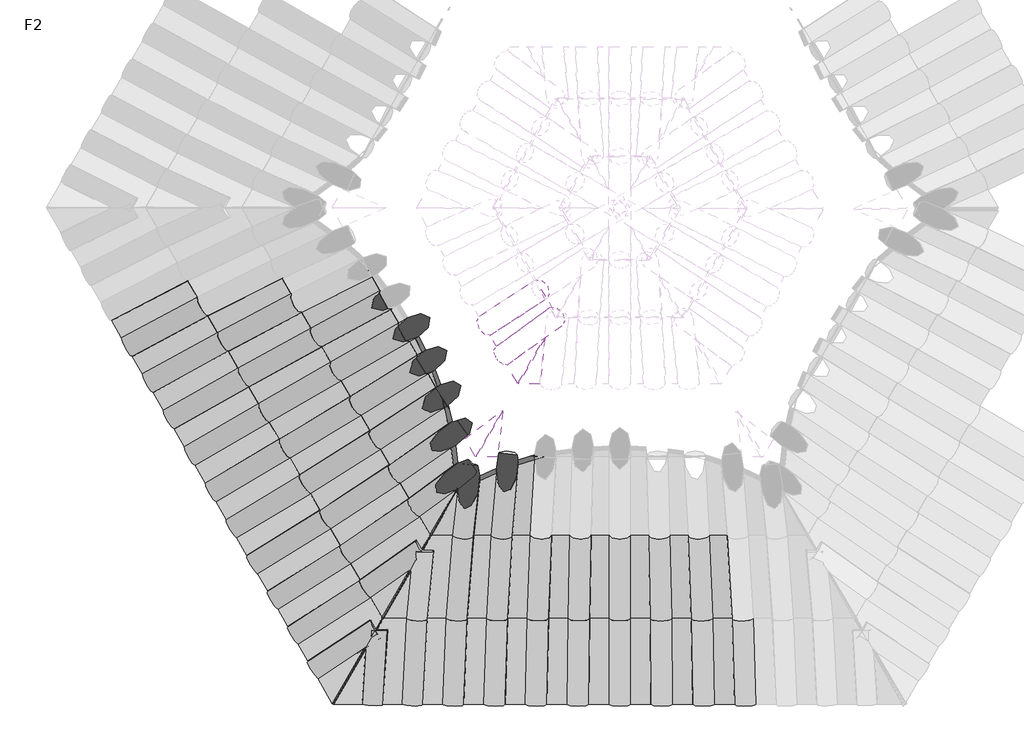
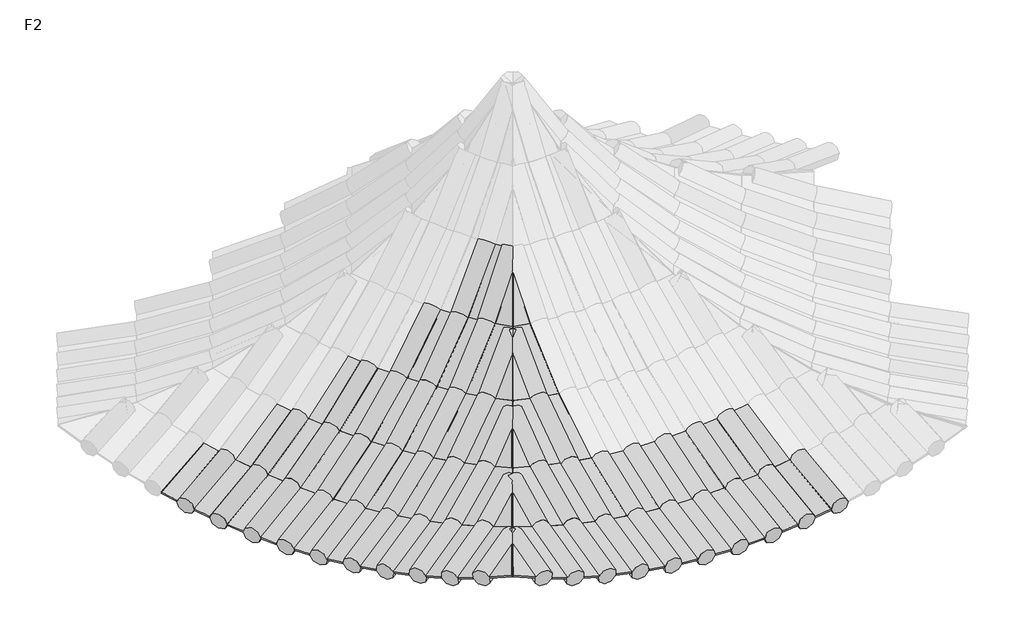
# One storey, part 1 of 6: 58 plates, 51 members.
"""IFC4 building model written with IfcOpenShell, lengths in millimetres."""

from ifc_helpers import new_model, si_unit, origin, place, context, project, spatial, transform, mapped, element, save
from components import member_7626b7be, member_26c271c4, member_52a6bcec, member_d07f44d0, member_52043cd3, member_28539939, member_fd67414a, member_29c24a8f, member_5ebe3699, member_9d2ae609, member_3b22838b, member_f81221a5, member_02d8162e, member_5a0915c5, member_9361b17f, member_c5fdb4bd, member_f944c00d, member_44465ff4, member_d0b930ac, member_f34ff4b6, member_1220ca79, plate_0ebb438e, plate_6b57b127, plate_d3f52e52, plate_d213f6b1, plate_9638d80c, plate_89c366d1, plate_aaafe28a, plate_ecf98e0f, plate_a8a21952, plate_665b0e48, plate_f97c0013, plate_6a16cba0, plate_1539b490, plate_9ed079f8, plate_51358e00, plate_823a82dc, plate_c055fcc8, plate_38bc2d65, plate_a3322e93, plate_fe606144, plate_ecea87b7, plate_f94965ac, plate_2cce4260

model = new_model("IFC4")

# Units and contexts
model_context = context("Model", 3, world=origin())
ifc_project = project(units=[si_unit("LENGTHUNIT", "METRE", prefix="MILLI")], contexts=[model_context])

# Site, building, storey
site = spatial("IfcSite", under=ifc_project)
building = spatial("IfcBuilding", under=site)
storey = spatial("IfcBuildingStorey", under=building, Name="F2", Elevation=4000.0)

# Members
placement = place(None, origin())
member_shape = member_7626b7be(model_context)
element("IfcMember", 1, ObjectType="矩形竖梃 : 圆瓦", at=placement, inside=storey, context=model_context, shape_type="MappedRepresentation", body=[
    mapped(member_shape, transform((-17486.728245, -3504.4950657, 4853.1986775), x_axis=(0.9346101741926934, 0.0, -0.3556737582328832), y_axis=(0.35107992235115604, -0.1602027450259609, 0.9225388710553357), z_axis=(-0.05697991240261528, -0.9870841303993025, -0.14972711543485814))),
])
member_2_shape = member_26c271c4(model_context)
element("IfcMember", 2, ObjectType="矩形竖梃 : 圆瓦", at=placement, inside=storey, context=model_context, shape_type="MappedRepresentation", body=[
    mapped(member_2_shape, transform((-17085.5139202, -2725.7203958, 4855.3516935), x_axis=(0.9544369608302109, 0.0, -0.29841261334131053), y_axis=(0.2856662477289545, -0.289142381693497, 0.9136692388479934), z_axis=(-0.08628373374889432, -0.9572861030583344, -0.2759681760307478))),
])
member_3_shape = member_52a6bcec(model_context)
element("IfcMember", 3, ObjectType="矩形竖梃 : 圆瓦", at=placement, inside=storey, context=model_context, shape_type="MappedRepresentation", body=[
    mapped(member_3_shape, transform((-17125.313335, -3504.4950657, 4728.0580377), x_axis=(0.9544369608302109, 0.0, -0.29841261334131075), y_axis=(0.29413052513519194, -0.1687992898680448, 0.9407412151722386), z_axis=(-0.05037183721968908, -0.9856504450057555, -0.16110828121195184))),
])
member_4_shape = member_d07f44d0(model_context)
element("IfcMember", 4, ObjectType="矩形竖梃 : 圆瓦", at=placement, inside=storey, context=model_context, shape_type="MappedRepresentation", body=[
    mapped(member_4_shape, transform((-16724.9660331, -2725.7203958, 4754.5081374), x_axis=(0.9707591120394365, 0.0, -0.2400557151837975), y_axis=(0.22897205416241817, -0.3003508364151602, 0.9259379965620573), z_axis=(-0.07210093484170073, -0.9538287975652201, -0.29156831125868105))),
])
member_5_shape = member_52043cd3(model_context)
element("IfcMember", 5, ObjectType="矩形竖梃 : 圆瓦", at=placement, inside=storey, context=model_context, shape_type="MappedRepresentation", body=[
    mapped(member_5_shape, transform((-16667.9981881, -1972.0884052, 4984.8798848), x_axis=(0.9707591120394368, 0.0, -0.2400557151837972), y_axis=(0.21812466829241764, -0.4175763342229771, 0.8820723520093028), z_axis=(-0.10024158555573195, -0.908641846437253, -0.40536603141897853))),
])
member_6_shape = member_28539939(model_context)
element("IfcMember", 6, ObjectType="矩形竖梃 : 圆瓦", at=placement, inside=storey, context=model_context, shape_type="MappedRepresentation", body=[
    mapped(member_6_shape, transform((-16756.982364, -3504.4950657, 4625.0375895), x_axis=(0.9707591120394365, 0.0, -0.2400557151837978), y_axis=(0.2366110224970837, -0.16879928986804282, 0.9568291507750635), z_axis=(-0.04052123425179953, -0.9856504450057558, -0.1638634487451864))),
])
element("IfcMember", 7, ObjectType="矩形竖梃 : 圆瓦", at=placement, inside=storey, context=model_context, shape_type="MappedRepresentation", body=[
    mapped(member_6_shape, transform((-16383.0878214, -3504.4950657, 4544.5156178), x_axis=(0.9835166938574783, 0.0, -0.18081734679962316), y_axis=(0.17822269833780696, -0.1687992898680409, 0.9694036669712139), z_axis=(-0.03052183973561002, -0.9856504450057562, -0.1660169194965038))),
])
element("IfcMember", 8, ObjectType="矩形竖梃 : 圆瓦", at=placement, inside=storey, context=model_context, shape_type="MappedRepresentation", body=[
    mapped(member_6_shape, transform((-16005.0026255, -3504.4950657, 4486.7877946), x_axis=(0.992662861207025, 0.0, -0.12091502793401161), y_axis=(0.11917995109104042, -0.1687992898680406, 0.9784185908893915), z_axis=(-0.020410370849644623, -0.9856504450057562, -0.16756078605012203))),
])
element("IfcMember", 9, ObjectType="矩形竖梃 : 圆瓦", at=placement, inside=storey, context=model_context, shape_type="MappedRepresentation", body=[
    mapped(member_6_shape, transform((-15624.1150825, -3504.4950657, 4452.0660929), x_axis=(0.9981640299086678, 0.0, -0.060568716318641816), y_axis=(0.059699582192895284, -0.16879928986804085, 0.9838408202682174), z_axis=(-0.010223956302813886, -0.9856504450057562, -0.1684893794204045))),
])
element("IfcMember", 10, ObjectType="矩形竖梃 : 圆瓦", at=placement, inside=storey, context=model_context, shape_type="MappedRepresentation", body=[
    mapped(member_6_shape, transform((-19710.6199159, -262.4079271, 4544.5156178), x_axis=(0.4910483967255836, -0.8521599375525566, -0.1808173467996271), y_axis=(-0.05727205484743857, -0.23869738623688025, 0.9694036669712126), z_axis=(-0.8692475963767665, -0.46566833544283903, -0.1660169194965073))),
])
element("IfcMember", 11, ObjectType="矩形竖梃 : 圆瓦", at=placement, inside=storey, context=model_context, shape_type="MappedRepresentation", body=[
    mapped(member_6_shape, transform((-19521.8502382, -589.9967305, 4486.7877946), x_axis=(0.49561487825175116, -0.8600845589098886, -0.1209150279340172), y_axis=(-0.08675080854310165, -0.18754028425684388, 0.9784185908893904), z_axis=(-0.864199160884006, -0.47442933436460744, -0.16756078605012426))),
])
element("IfcMember", 12, ObjectType="矩形竖梃 : 圆瓦", at=placement, inside=storey, context=model_context, shape_type="MappedRepresentation", body=[
    mapped(member_6_shape, transform((-19331.6814099, -920.0136045, 4452.0660929), x_axis=(0.4983614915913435, -0.8648510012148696, -0.060568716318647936), y_axis=(-0.11644805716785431, -0.1360040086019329, 0.9838408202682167), z_axis=(-0.8591133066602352, -0.4832552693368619, -0.16848937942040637))),
])
member_7_shape = member_fd67414a(model_context)
element("IfcMember", 13, ObjectType="矩形竖梃 : 圆瓦", at=placement, inside=storey, context=model_context, shape_type="MappedRepresentation", body=[
    mapped(member_7_shape, transform((-16358.9721363, -2725.7203958, 4675.6876498), x_axis=(0.9835166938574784, 0.0, -0.18081734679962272), y_axis=(0.17246879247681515, -0.3003508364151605, 0.9381065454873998), z_axis=(-0.05430864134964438, -0.9538287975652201, -0.29540006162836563))),
])
element("IfcMember", 14, ObjectType="矩形竖梃 : 圆瓦", at=placement, inside=storey, context=model_context, shape_type="MappedRepresentation", body=[
    mapped(member_7_shape, transform((-15988.8761377, -2725.7203958, 4619.1796547), x_axis=(0.992662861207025, 0.0, -0.12091502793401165), y_axis=(0.11533223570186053, -0.3003508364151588, 0.9468304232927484), z_axis=(-0.036316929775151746, -0.9538287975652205, -0.2981471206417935))),
])
element("IfcMember", 15, ObjectType="矩形竖梃 : 圆瓦", at=placement, inside=storey, context=model_context, shape_type="MappedRepresentation", body=[
    mapped(member_7_shape, transform((-15616.0370075, -2725.7203958, 4585.1916462), x_axis=(0.9981640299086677, 0.0, -0.060568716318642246), y_axis=(0.057772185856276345, -0.3003508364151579, 0.9520775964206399), z_axis=(-0.01819186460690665, -0.9538287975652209, -0.29979940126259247))),
])
element("IfcMember", 16, ObjectType="矩形竖梃 : 圆瓦", at=placement, inside=storey, context=model_context, shape_type="MappedRepresentation", body=[
    mapped(member_7_shape, transform((-18839.0357378, -215.1442155, 4619.1796547), x_axis=(0.4956148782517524, -0.8600845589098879, -0.12091502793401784), y_axis=(-0.20265364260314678, -0.24988727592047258, 0.9468304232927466), z_axis=(-0.8445693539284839, -0.4447593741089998, -0.2981471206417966))),
])
element("IfcMember", 17, ObjectType="矩形竖梃 : 圆瓦", at=placement, inside=storey, context=model_context, shape_type="MappedRepresentation", body=[
    mapped(member_7_shape, transform((-18652.8853061, -538.1876085, 4585.1916462), x_axis=(0.49836149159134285, -0.8648510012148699, -0.06056871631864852), y_axis=(-0.23139211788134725, -0.20001484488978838, 0.9520775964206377), z_axis=(-0.8355199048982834, -0.46046368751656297, -0.29979940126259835))),
])
element("IfcMember", 18, ObjectType="矩形竖梃 : 圆瓦", at=placement, inside=storey, context=model_context, shape_type="MappedRepresentation", body=[
    mapped(member_7_shape, transform((-17992.7306423, -174.3695247, 4822.0668801), x_axis=(0.49836149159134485, -0.8648510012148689, -0.060568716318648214), y_axis=(-0.3420974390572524, -0.2603617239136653, 0.9028738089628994), z_axis=(-0.7966210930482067, -0.4292371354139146, -0.42561756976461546))),
])
member_8_shape = member_29c24a8f(model_context)
element("IfcMember", 19, ObjectType="矩形竖梃 : 圆瓦", at=placement, inside=storey, context=model_context, shape_type="MappedRepresentation", body=[
    mapped(member_8_shape, transform((-16316.0622037, -1972.0884052, 4909.0869108), x_axis=(0.9835166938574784, 0.0, -0.18081734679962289), y_axis=(0.16355552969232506, -0.42640042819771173, 0.8896247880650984), z_axis=(-0.07710059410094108, -0.9045345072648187, -0.4193719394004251))),
])
member_9_shape = member_5ebe3699(model_context)
element("IfcMember", 20, ObjectType="矩形竖梃 : 圆瓦", at=placement, inside=storey, context=model_context, shape_type="MappedRepresentation", body=[
    mapped(member_9_shape, transform((-16255.1440658, -1257.4044461, 5240.4378936), x_axis=(0.9835166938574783, 0.0, -0.18081734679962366), y_axis=(0.1520572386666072, -0.5411223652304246, 0.8270823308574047), z_axis=(-0.09784431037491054, -0.8409438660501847, -0.5322028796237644))),
])
member_10_shape = member_9d2ae609(model_context)
element("IfcMember", 21, ObjectType="矩形竖梃 : 圆瓦", at=placement, inside=storey, context=model_context, shape_type="MappedRepresentation", body=[
    mapped(member_10_shape, transform((-15241.8237888, -3504.4950657, 4440.4780088), x_axis=(1.0, 0.0, 0.0), y_axis=(0.0, -0.16879928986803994, 0.9856504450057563), z_axis=(0.0, -0.9856504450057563, -0.16879928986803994))),
])
element("IfcMember", 22, ObjectType="矩形竖梃 : 圆瓦", at=placement, inside=storey, context=model_context, shape_type="MappedRepresentation", body=[
    mapped(member_10_shape, transform((-19140.8117195, -1251.2467467, 4440.4780088), x_axis=(0.4992781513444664, -0.8664417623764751, 0.0), y_axis=(-0.14625475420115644, -0.08427779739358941, 0.9856504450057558), z_axis=(-0.8540087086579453, -0.4921137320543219, -0.16879928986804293))),
])
element("IfcMember", 23, ObjectType="矩形竖梃 : 圆瓦", at=placement, inside=storey, context=model_context, shape_type="MappedRepresentation", body=[
    mapped(member_10_shape, transform((-18949.9420291, -1582.479889, 4452.0660929), x_axis=(0.4983614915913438, -0.8648510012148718, 0.060568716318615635), y_axis=(-0.17606145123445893, -0.03255158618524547, 0.9838408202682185), z_axis=(-0.8489041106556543, -0.5009721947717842, -0.1684893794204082))),
])
element("IfcMember", 24, ObjectType="矩形竖梃 : 圆瓦", at=placement, inside=storey, context=model_context, shape_type="MappedRepresentation", body=[
    mapped(member_10_shape, transform((-18759.7732008, -1912.496763, 4486.7877946), x_axis=(0.49561487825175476, -0.8600845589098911, 0.12091502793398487), y_axis=(-0.20575869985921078, 0.018984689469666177, 0.9784185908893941), z_axis=(-0.8438182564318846, -0.5097981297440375, -0.16756078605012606))),
])
element("IfcMember", 25, ObjectType="矩形竖梃 : 圆瓦", at=placement, inside=storey, context=model_context, shape_type="MappedRepresentation", body=[
    mapped(member_10_shape, transform((-18571.0035231, -2240.0855664, 4544.5156178), x_axis=(0.49104839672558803, -0.8521599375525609, 0.18081734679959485), y_axis=(-0.2352374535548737, 0.07014179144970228, 0.9694036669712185), z_axis=(-0.8387698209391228, -0.5185591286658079, -0.16601691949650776))),
])
element("IfcMember", 26, ObjectType="矩形竖梃 : 圆瓦", at=placement, inside=storey, context=model_context, shape_type="MappedRepresentation", body=[
    mapped(member_10_shape, transform((-18384.3261471, -2564.0434129, 4625.0375895), x_axis=(0.484678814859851, -0.8411062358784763, 0.24005571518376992), y_axis=(-0.2643894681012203, 0.12073187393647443, 0.9568291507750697), z_axis=(-0.833777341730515, -0.5272230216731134, -0.16386344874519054))),
])
member_11_shape = member_3b22838b(model_context)
element("IfcMember", 27, ObjectType="矩形竖梃 : 圆瓦", at=placement, inside=storey, context=model_context, shape_type="MappedRepresentation", body=[
    mapped(member_11_shape, transform((-14859.5324951, -3504.4950657, 4452.0660929), x_axis=(0.9981640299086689, 0.0, 0.06056871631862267), y_axis=(-0.059699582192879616, -0.16879928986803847, 0.9838408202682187), z_axis=(0.010223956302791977, -0.9856504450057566, -0.16848937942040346))),
])
element("IfcMember", 28, ObjectType="矩形竖梃 : 圆瓦", at=placement, inside=storey, context=model_context, shape_type="MappedRepresentation", body=[
    mapped(member_11_shape, transform((-14478.6449522, -3504.4950657, 4486.7877946), x_axis=(0.9926628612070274, 0.0, 0.12091502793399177), y_axis=(-0.11917995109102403, -0.1687992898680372, 0.9784185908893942), z_axis=(0.02041037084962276, -0.9856504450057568, -0.16756078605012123))),
])
element("IfcMember", 29, ObjectType="矩形竖梃 : 圆瓦", at=placement, inside=storey, context=model_context, shape_type="MappedRepresentation", body=[
    mapped(member_11_shape, transform((-14100.5597563, -3504.4950657, 4544.5156178), x_axis=(0.983516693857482, 0.0, 0.18081734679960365), y_axis=(-0.17822269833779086, -0.1687992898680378, 0.9694036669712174), z_axis=(0.030521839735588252, -0.9856504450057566, -0.16601691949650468))),
])
member_12_shape = member_f81221a5(model_context)
element("IfcMember", 30, ObjectType="矩形竖梃 : 圆瓦", at=placement, inside=storey, context=model_context, shape_type="MappedRepresentation", body=[
    mapped(member_12_shape, transform((-15241.8237888, -2725.7203958, 4573.8484261), x_axis=(1.0, 0.0, 0.0), y_axis=(0.0, -0.30035083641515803, 0.9538287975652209), z_axis=(0.0, -0.9538287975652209, -0.30035083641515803))),
])
element("IfcMember", 31, ObjectType="矩形竖梃 : 圆瓦", at=placement, inside=storey, context=model_context, shape_type="MappedRepresentation", body=[
    mapped(member_12_shape, transform((-18466.048822, -862.4215693, 4573.8484261), x_axis=(0.49927815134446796, -0.8664417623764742, 0.0), y_axis=(-0.26023650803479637, -0.14995861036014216, 0.9538287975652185), z_axis=(-0.8264371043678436, -0.47622587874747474, -0.3003508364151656))),
])
element("IfcMember", 32, ObjectType="矩形竖梃 : 圆瓦", at=placement, inside=storey, context=model_context, shape_type="MappedRepresentation", body=[
    mapped(member_12_shape, transform((-18279.212338, -1186.65553, 4585.1916462), x_axis=(0.49836149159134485, -0.8648510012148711, 0.06056871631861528), y_axis=(-0.2890808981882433, -0.09990237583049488, 0.9520775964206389), z_axis=(-0.8173543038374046, -0.49198806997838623, -0.2997994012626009))),
])
element("IfcMember", 33, ObjectType="矩形竖梃 : 圆瓦", at=placement, inside=storey, context=model_context, shape_type="MappedRepresentation", body=[
    mapped(member_12_shape, transform((-18093.0619063, -1509.698923, 4619.1796547), x_axis=(0.4956148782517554, -0.860084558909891, 0.12091502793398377), y_axis=(-0.3178193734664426, -0.05002994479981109, 0.9468304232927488), z_axis=(-0.8083048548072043, -0.5076923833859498, -0.29814712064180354))),
])
element("IfcMember", 34, ObjectType="矩形竖梃 : 圆瓦", at=placement, inside=storey, context=model_context, shape_type="MappedRepresentation", body=[
    mapped(member_12_shape, transform((-17908.2810603, -1830.3655523, 4675.6876498), x_axis=(0.49104839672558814, -0.852159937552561, 0.1808173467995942), y_axis=(-0.3463464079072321, -0.0005244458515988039, 0.9381065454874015), z_axis=(-0.7993219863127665, -0.5232811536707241, -0.2954000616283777))),
])
element("IfcMember", 35, ObjectType="矩形竖梃 : 圆瓦", at=placement, inside=storey, context=model_context, shape_type="MappedRepresentation", body=[
    mapped(member_12_shape, transform((-17813.0705919, -486.1495822, 4811.1593559), x_axis=(0.4992781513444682, -0.8664417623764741, 0.0), y_axis=(-0.36945113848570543, -0.21289241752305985, 0.9045345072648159), z_axis=(-0.7837264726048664, -0.4516143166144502, -0.42640042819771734))),
])
element("IfcMember", 36, ObjectType="矩形竖梃 : 圆瓦", at=placement, inside=storey, context=model_context, shape_type="MappedRepresentation", body=[
    mapped(member_12_shape, transform((-17633.4105414, -797.9296397, 4822.0668801), x_axis=(0.4983614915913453, -0.8648510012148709, 0.060568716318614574), y_axis=(-0.39680483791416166, -0.1654231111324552, 0.9028738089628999), z_axis=(-0.770831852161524, -0.47399149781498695, -0.4256175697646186))),
])
element("IfcMember", 37, ObjectType="矩形竖梃 : 圆瓦", at=placement, inside=storey, context=model_context, shape_type="MappedRepresentation", body=[
    mapped(member_12_shape, transform((-17454.410192, -1108.5648594, 4854.7494012), x_axis=(0.49561487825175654, -0.8600845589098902, 0.12091502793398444), y_axis=(-0.42405809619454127, -0.11812810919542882, 0.8978978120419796), z_axis=(-0.7579845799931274, -0.4962865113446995, -0.4232718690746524))),
])
element("IfcMember", 38, ObjectType="矩形竖梃 : 圆瓦", at=placement, inside=storey, context=model_context, shape_type="MappedRepresentation", body=[
    mapped(member_12_shape, transform((-17193.8385629, -129.3234963, 5148.0636351), x_axis=(0.49927815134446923, -0.8664417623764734, 0.0), y_axis=(-0.4718980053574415, -0.27192637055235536, 0.8386705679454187), z_axis=(-0.7266592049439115, -0.4187298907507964, -0.5446390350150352))),
])
element("IfcMember", 39, ObjectType="矩形竖梃 : 圆瓦", at=placement, inside=storey, context=model_context, shape_type="MappedRepresentation", body=[
    mapped(member_12_shape, transform((-17024.3667123, -423.4230647, 5158.3526132), x_axis=(0.49836149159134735, -0.8648510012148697, 0.06056871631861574), y_axis=(-0.49725993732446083, -0.227913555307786, 0.8371307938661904), z_axis=(-0.7101889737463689, -0.4473121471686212, -0.5436390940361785))),
])
element("IfcMember", 40, ObjectType="矩形竖梃 : 圆瓦", at=placement, inside=storey, context=model_context, shape_type="MappedRepresentation", body=[
    mapped(member_12_shape, transform((-16855.5171523, -716.4427172, 5189.1817669), x_axis=(0.49561487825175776, -0.8600845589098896, 0.12091502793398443), y_axis=(-0.5225287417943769, -0.1840623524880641, 0.8325171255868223), z_axis=(-0.6937792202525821, -0.4757894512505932, -0.5406429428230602))),
])
element("IfcMember", 41, ObjectType="矩形竖梃 : 圆瓦", at=placement, inside=storey, context=model_context, shape_type="MappedRepresentation", body=[
    mapped(member_12_shape, transform((-16463.2375753, -69.9961764, 5587.8886197), x_axis=(0.49836149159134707, -0.8648510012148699, 0.06056871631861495), y_axis=(-0.5886060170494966, -0.2862289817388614, 0.7560528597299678), z_axis=(-0.6365365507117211, -0.41243874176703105, -0.6517020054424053))),
])
member_13_shape = member_02d8162e(model_context)
element("IfcMember", 42, ObjectType="矩形竖梃 : 圆瓦", at=placement, inside=storey, context=model_context, shape_type="MappedRepresentation", body=[
    mapped(member_13_shape, transform((-14867.6105701, -2725.7203958, 4585.1916462), x_axis=(0.9981640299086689, 0.0, 0.060568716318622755), y_axis=(-0.05777218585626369, -0.30035083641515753, 0.9520775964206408), z_axis=(0.01819186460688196, -0.953828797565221, -0.2997994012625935))),
])
element("IfcMember", 43, ObjectType="矩形竖梃 : 圆瓦", at=placement, inside=storey, context=model_context, shape_type="MappedRepresentation", body=[
    mapped(member_13_shape, transform((-14494.7714399, -2725.7203958, 4619.1796547), x_axis=(0.9926628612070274, 0.0, 0.1209150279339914), y_axis=(-0.11533223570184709, -0.30035083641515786, 0.9468304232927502), z_axis=(0.03631692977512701, -0.953828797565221, -0.2981471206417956))),
])
member_14_shape = member_5a0915c5(model_context)
element("IfcMember", 44, ObjectType="矩形竖梃 : 圆瓦", at=placement, inside=storey, context=model_context, shape_type="MappedRepresentation", body=[
    mapped(member_14_shape, transform((-16307.3535655, -340.5155569, 5616.3504772), x_axis=(0.49561487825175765, -0.8600845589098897, 0.12091502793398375), y_axis=(-0.6114274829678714, -0.2466248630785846, 0.7518860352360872), z_axis=(-0.6168649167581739, -0.44657667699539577, -0.6481102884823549))),
])
member_15_shape = member_9361b17f(model_context)
element("IfcMember", 45, ObjectType="矩形竖梃 : 圆瓦", at=placement, inside=storey, context=model_context, shape_type="MappedRepresentation", body=[
    mapped(member_15_shape, transform((-18019.9799727, -3196.3257201, 4853.1986775), x_axis=(0.46663043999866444, -0.8097852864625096, 0.3556737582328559), y_axis=(-0.3140939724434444, 0.22420386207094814, 0.922538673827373), z_axis=(-0.8268016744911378, -0.5421996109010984, -0.14972833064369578))),
])
member_16_shape = member_c5fdb4bd(model_context)
element("IfcMember", 46, ObjectType="矩形竖梃 : 圆瓦", at=placement, inside=storey, context=model_context, shape_type="MappedRepresentation", body=[
    mapped(member_16_shape, transform((-18200.4265408, -2883.1807485, 4728.0580377), x_axis=(0.4765295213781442, -0.8269640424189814, 0.29841261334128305), y_axis=(-0.293107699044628, 0.17056917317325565, 0.940741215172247), z_axis=(-0.8288591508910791, -0.5357579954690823, -0.16110828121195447))),
])
member_17_shape = member_f944c00d(model_context)
element("IfcMember", 47, ObjectType="矩形竖梃 : 圆瓦", at=placement, inside=storey, context=model_context, shape_type="MappedRepresentation", body=[
    mapped(member_17_shape, transform((-17725.5483042, -2147.4779492, 4754.5081374), x_axis=(0.4846788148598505, -0.8411062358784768, 0.24005571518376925), y_axis=(-0.37455725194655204, 0.048432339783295, 0.9259379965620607), z_axis=(-0.790438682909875, -0.5386971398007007, -0.29156831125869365))),
])
member_18_shape = member_44465ff4(model_context)
element("IfcMember", 48, ObjectType="矩形竖梃 : 圆瓦", at=placement, inside=storey, context=model_context, shape_type="MappedRepresentation", body=[
    mapped(member_18_shape, transform((-17276.726822, -1416.9146075, 4909.0869108), x_axis=(0.49104839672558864, -0.8521599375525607, 0.18081734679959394), y_axis=(-0.4511108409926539, -0.07118107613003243, 0.8896247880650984), z_axis=(-0.745231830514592, -0.5184174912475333, -0.4193719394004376))),
])
member_19_shape = member_d0b930ac(model_context)
element("IfcMember", 49, ObjectType="矩形竖梃 : 圆瓦", at=placement, inside=storey, context=model_context, shape_type="MappedRepresentation", body=[
    mapped(member_19_shape, transform((-16687.9098883, -1007.3065029, 5240.4378936), x_axis=(0.49104839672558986, -0.8521599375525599, 0.18081734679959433), y_axis=(-0.5447715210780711, -0.13842305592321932, 0.8270810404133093), z_axis=(-0.6797760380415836, -0.5046409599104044, -0.5322048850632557))),
])
member_20_shape = member_f34ff4b6(model_context)
element("IfcMember", 50, ObjectType="矩形竖梃 : 圆瓦", at=placement, inside=storey, context=model_context, shape_type="MappedRepresentation", body=[
    mapped(member_20_shape, transform((-17545.5346216, -2459.8716959, 4855.3516935), x_axis=(0.4765295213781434, -0.8269640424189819, 0.2984126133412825), y_axis=(-0.3931530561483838, 0.10314991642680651, 0.913668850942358), z_axis=(-0.7863525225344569, -0.5527120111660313, -0.2759694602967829))),
])
member_21_shape = member_1220ca79(model_context)
element("IfcMember", 51, ObjectType="矩形竖梃 : 圆瓦", at=placement, inside=storey, context=model_context, shape_type="MappedRepresentation", body=[
    mapped(member_21_shape, transform((-17101.0128743, -1721.8466421, 4984.8798848), x_axis=(0.4846788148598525, -0.8411062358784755, 0.2400557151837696), y_axis=(-0.4707118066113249, -0.019495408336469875, 0.8820716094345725), z_axis=(-0.7372359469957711, -0.5405184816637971, -0.40536764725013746))),
])

# Plates
plate_shape = plate_0ebb438e(model_context)
element("IfcPlate", 52, ObjectType="空系统嵌板 : 空", at=placement, inside=storey, context=model_context, shape_type="MappedRepresentation", body=[
    mapped(plate_shape, transform((-17351.6901662, -3504.4950657, 4806.441471), x_axis=(0.9449573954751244, 0.0, -0.32719339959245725), y_axis=(-0.3225025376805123, 0.1687240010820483, -0.9314098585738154), z_axis=(0.05520537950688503, 0.9856633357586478, 0.15943699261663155))),
])
plate_2_shape = plate_6b57b127(model_context)
element("IfcPlate", 53, ObjectType="空系统嵌板 : 空", at=placement, inside=storey, context=model_context, shape_type="MappedRepresentation", body=[
    mapped(plate_2_shape, transform((-16941.1478495, -3504.4950657, 4676.5478136), x_axis=(0.9630401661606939, 0.0, -0.2693578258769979), y_axis=(-0.26549613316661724, 0.16872400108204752, -0.9492333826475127), z_axis=(0.04544713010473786, 0.9856633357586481, 0.16248799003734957))),
])
element("IfcPlate", 54, ObjectType="空系统嵌板 : 空", at=placement, inside=storey, context=model_context, shape_type="MappedRepresentation", body=[
    mapped(plate_2_shape, transform((-16570.0350927, -3504.4950657, 4584.7766036), x_axis=(0.9775867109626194, 0.0, -0.21053318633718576), y_axis=(-0.2075148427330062, 0.16872400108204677, -0.9635713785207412), z_axis=(0.0355220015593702, 0.9856633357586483, 0.16494234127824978))),
])
element("IfcPlate", 55, ObjectType="空系统嵌板 : 空", at=placement, inside=storey, context=model_context, shape_type="MappedRepresentation", body=[
    mapped(plate_2_shape, transform((-16194.0452234, -3504.4950657, 4515.6517062), x_axis=(0.9885436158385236, 0.0, -0.15093548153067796), y_axis=(-0.14877157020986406, 0.16872400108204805, -0.9743711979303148), z_axis=(0.025466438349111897, 0.9856633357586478, 0.16679103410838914))),
])
element("IfcPlate", 56, ObjectType="空系统嵌板 : 空", at=placement, inside=storey, context=model_context, shape_type="MappedRepresentation", body=[
    mapped(plate_2_shape, transform((-15814.558854, -3504.4950657, 4469.4269438), x_axis=(0.9958706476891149, 0.0, -0.09078355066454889), y_axis=(-0.08948201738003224, 0.16872400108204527, -0.9815931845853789), z_axis=(0.01531736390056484, 0.9856633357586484, 0.16802728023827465))),
])
element("IfcPlate", 57, ObjectType="空系统嵌板 : 空", at=placement, inside=storey, context=model_context, shape_type="MappedRepresentation", body=[
    mapped(plate_2_shape, transform((-15432.9694357, -3504.4950657, 4446.2720508), x_axis=(0.999540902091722, 0.0, -0.03029826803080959), y_axis=(-0.029863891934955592, 0.1687240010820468, -0.985210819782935), z_axis=(0.005112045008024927, 0.9856633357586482, 0.16864654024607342))),
])
element("IfcPlate", 58, ObjectType="空系统嵌板 : 空", at=placement, inside=storey, context=model_context, shape_type="MappedRepresentation", body=[
    mapped(plate_2_shape, transform((-15050.678142, -3504.4950657, 4446.2720508), x_axis=(0.9995409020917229, 0.0, 0.03029826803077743), y_axis=(0.029863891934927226, 0.1687240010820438, -0.9852108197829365), z_axis=(-0.005112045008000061, 0.9856633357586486, 0.16864654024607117))),
])
element("IfcPlate", 59, ObjectType="空系统嵌板 : 空", at=placement, inside=storey, context=model_context, shape_type="MappedRepresentation", body=[
    mapped(plate_2_shape, transform((-14669.0887236, -3504.4950657, 4469.4269438), x_axis=(0.9958706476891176, 0.0, 0.09078355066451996), y_axis=(0.08948201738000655, 0.16872400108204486, -0.9815931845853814), z_axis=(-0.015317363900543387, 0.9856633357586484, 0.16802728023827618))),
])
element("IfcPlate", 60, ObjectType="空系统嵌板 : 空", at=placement, inside=storey, context=model_context, shape_type="MappedRepresentation", body=[
    mapped(plate_2_shape, transform((-14289.6023542, -3504.4950657, 4515.6517062), x_axis=(0.9885436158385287, 0.0, 0.15093548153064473), y_axis=(0.14877157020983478, 0.1687240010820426, -0.9743711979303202), z_axis=(-0.025466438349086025, 0.985663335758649, 0.1667910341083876))),
])
element("IfcPlate", 61, ObjectType="空系统嵌板 : 空", at=placement, inside=storey, context=model_context, shape_type="MappedRepresentation", body=[
    mapped(plate_2_shape, transform((-19803.9586039, -100.4290038, 4584.7766036), x_axis=(0.4880876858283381, -0.8470219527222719, -0.21053318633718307), y_axis=(0.042581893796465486, 0.2640397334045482, -0.9635713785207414), z_axis=(0.8717552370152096, 0.46134242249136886, 0.16494234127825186))),
])
element("IfcPlate", 62, ObjectType="空系统嵌板 : 空", at=placement, inside=storey, context=model_context, shape_type="MappedRepresentation", body=[
    mapped(plate_2_shape, transform((-19616.235077, -426.2023288, 4515.6517062), x_axis=(0.4935582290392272, -0.856515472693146, -0.15093548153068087), y_axis=(0.07191112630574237, 0.21314210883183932, -0.9743711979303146), z_axis=(0.8667347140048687, 0.4700549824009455, 0.16679103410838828))),
])
element("IfcPlate", 63, ObjectType="空系统嵌板 : 空", at=placement, inside=storey, context=model_context, shape_type="MappedRepresentation", body=[
    mapped(plate_2_shape, transform((-19426.7658241, -755.0051675, 4469.4269438), x_axis=(0.497216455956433, -0.8628639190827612, -0.09078355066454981), y_axis=(0.10151310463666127, 0.16177116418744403, -0.9815931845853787), z_axis=(0.8616675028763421, 0.4788485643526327, 0.16802728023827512))),
])
element("IfcPlate", 64, ObjectType="空系统嵌板 : 空", at=placement, inside=storey, context=model_context, shape_type="MappedRepresentation", body=[
    mapped(plate_2_shape, transform((-19236.2465647, -1085.6301756, 4446.2720508), x_axis=(0.49904893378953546, -0.8660439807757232, -0.03029826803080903), y_axis=(0.13127913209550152, 0.11011553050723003, -0.9852108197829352), z_axis=(0.8565722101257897, 0.4876908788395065, 0.16864654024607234))),
])
element("IfcPlate", 65, ObjectType="空系统嵌板 : 空", at=placement, inside=storey, context=model_context, shape_type="MappedRepresentation", body=[
    mapped(plate_2_shape, transform((-19045.3768743, -1416.8633179, 4446.2720508), x_axis=(0.4990489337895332, -0.8660439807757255, 0.03029826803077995), y_axis=(0.16109990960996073, 0.05836488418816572, -0.9852108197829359), z_axis=(0.8514675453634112, 0.4965494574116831, 0.16864654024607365))),
])
element("IfcPlate", 66, ObjectType="空系统嵌板 : 空", at=placement, inside=storey, context=model_context, shape_type="MappedRepresentation", body=[
    mapped(plate_2_shape, transform((-18854.857615, -1747.488326, 4469.4269438), x_axis=(0.49721645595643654, -0.8628639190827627, 0.09078355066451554), y_axis=(0.19086593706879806, 0.006709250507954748, -0.9815931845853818), z_axis=(0.8463722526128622, 0.5053917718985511, 0.1680272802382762))),
])
element("IfcPlate", 67, ObjectType="空系统嵌板 : 空", at=placement, inside=storey, context=model_context, shape_type="MappedRepresentation", body=[
    mapped(plate_2_shape, transform((-18665.388362, -2076.2911647, 4515.6517062), x_axis=(0.49355822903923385, -0.8565154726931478, 0.15093548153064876), y_axis=(0.22046791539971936, -0.04466169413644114, -0.9743711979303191), z_axis=(0.8413050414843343, 0.5141853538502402, 0.16679103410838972))),
])
element("IfcPlate", 68, ObjectType="空系统嵌板 : 空", at=placement, inside=storey, context=model_context, shape_type="MappedRepresentation", body=[
    mapped(plate_2_shape, transform((-18477.6648351, -2402.0644897, 4584.7766036), x_axis=(0.48808768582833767, -0.8470219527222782, 0.2105331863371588), y_axis=(0.24979714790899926, -0.09555931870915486, -0.9635713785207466), z_axis=(0.8362845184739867, 0.5228979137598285, 0.16494234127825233))),
])
element("IfcPlate", 69, ObjectType="空系统嵌板 : 空", at=placement, inside=storey, context=model_context, shape_type="MappedRepresentation", body=[
    mapped(plate_2_shape, transform((-18292.376344, -2723.6120807, 4676.5478136), x_axis=(0.4808249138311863, -0.8344182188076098, 0.26935782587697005), y_axis=(0.2787459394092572, -0.1457967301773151, -0.9492333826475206), z_axis=(0.8313291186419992, 0.5314974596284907, 0.16248799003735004))),
])
plate_3_shape = plate_d3f52e52(model_context)
element("IfcPlate", 70, ObjectType="空系统嵌板 : 空", at=placement, inside=storey, context=model_context, shape_type="MappedRepresentation", body=[
    mapped(plate_3_shape, transform((-17284.9651079, -2726.111149, 4924.281917), x_axis=(0.9449573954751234, 0.0, -0.3271933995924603), y_axis=(-0.31209940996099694, 0.30022537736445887, -0.9013648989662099), z_axis=(0.09823176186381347, 0.953868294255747, 0.2837001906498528))),
])
plate_4_shape = plate_d213f6b1(model_context)
element("IfcPlate", 71, ObjectType="空系统嵌板 : 空", at=placement, inside=storey, context=model_context, shape_type="MappedRepresentation", body=[
    mapped(plate_4_shape, transform((-16950.6375899, -2725.7203958, 4817.6274153), x_axis=(0.9630401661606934, 0.0, -0.26935782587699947), y_axis=(-0.25693188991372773, 0.3002253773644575, -0.9186134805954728), z_axis=(0.08086805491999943, 0.9538682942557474, 0.289129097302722))),
])
plate_5_shape = plate_9638d80c(model_context)
element("IfcPlate", 72, ObjectType="空系统嵌板 : 空", at=placement, inside=storey, context=model_context, shape_type="MappedRepresentation", body=[
    mapped(plate_5_shape, transform((-16541.9690847, -2725.7203958, 4715.0978936), x_axis=(0.97758671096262, 0.0, -0.21053318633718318), y_axis=(-0.20082093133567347, 0.3002253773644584, -0.932488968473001), z_axis=(0.06320740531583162, 0.953868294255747, 0.2934963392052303))),
])
element("IfcPlate", 73, ObjectType="空系统嵌板 : 空", at=placement, inside=storey, context=model_context, shape_type="MappedRepresentation", body=[
    mapped(plate_5_shape, transform((-16173.924137, -2725.7203958, 4647.4336523), x_axis=(0.9885436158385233, 0.0, -0.1509354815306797), y_axis=(-0.14397257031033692, 0.3002253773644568, -0.9429404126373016), z_axis=(0.045314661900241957, 0.9538682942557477, 0.29678588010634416))),
])
element("IfcPlate", 74, ObjectType="空系统嵌板 : 空", at=placement, inside=storey, context=model_context, shape_type="MappedRepresentation", body=[
    mapped(plate_5_shape, transform((-15802.4565726, -2725.7203958, 4602.1856505), x_axis=(0.9958706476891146, 0.0, -0.09078355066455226), y_axis=(-0.08659555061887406, 0.30022537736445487, -0.9499294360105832), z_axis=(0.02725552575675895, 0.9538682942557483, 0.2989856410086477))),
])
element("IfcPlate", 75, ObjectType="空系统嵌板 : 空", at=placement, inside=storey, context=model_context, shape_type="MappedRepresentation", body=[
    mapped(plate_5_shape, transform((-15428.9303982, -2725.7203958, 4579.5200362), x_axis=(0.9995409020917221, 0.0, -0.030298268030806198), y_axis=(-0.02890055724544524, 0.30022537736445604, -0.9534303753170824), z_axis=(0.009096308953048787, 0.9538682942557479, 0.3000875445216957))),
])
element("IfcPlate", 76, ObjectType="空系统嵌板 : 空", at=placement, inside=storey, context=model_context, shape_type="MappedRepresentation", body=[
    mapped(plate_5_shape, transform((-15054.7171795, -2725.7203958, 4579.5200362), x_axis=(0.999540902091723, 0.0, 0.030298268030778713), y_axis=(0.028900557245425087, 0.3002253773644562, -0.9534303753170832), z_axis=(-0.009096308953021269, 0.9538682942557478, 0.3000875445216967))),
])
element("IfcPlate", 77, ObjectType="空系统嵌板 : 空", at=placement, inside=storey, context=model_context, shape_type="MappedRepresentation", body=[
    mapped(plate_5_shape, transform((-14681.191005, -2725.7203958, 4602.1856505), x_axis=(0.9958706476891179, 0.0, 0.09078355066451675), y_axis=(0.08659555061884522, 0.3002253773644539, -0.9499294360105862), z_axis=(-0.027255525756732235, 0.9538682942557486, 0.2989856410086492))),
])
element("IfcPlate", 78, ObjectType="空系统嵌板 : 空", at=placement, inside=storey, context=model_context, shape_type="MappedRepresentation", body=[
    mapped(plate_5_shape, transform((-14309.7234406, -2725.7203958, 4647.4336523), x_axis=(0.9885436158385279, 0.0, 0.15093548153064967), y_axis=(0.1439725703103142, 0.3002253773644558, -0.9429404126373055), z_axis=(-0.045314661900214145, 0.9538682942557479, 0.29678588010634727))),
])
element("IfcPlate", 79, ObjectType="空系统嵌板 : 空", at=placement, inside=storey, context=model_context, shape_type="MappedRepresentation", body=[
    mapped(plate_5_shape, transform((-18931.4261608, -54.8109008, 4647.4336523), x_axis=(0.49355822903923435, -0.8565154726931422, -0.1509354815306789), y_axis=(0.1882454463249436, 0.2746398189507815, -0.9429404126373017), z_axis=(0.8490959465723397, 0.43698308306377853, 0.29678588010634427))),
])
element("IfcPlate", 80, ObjectType="空系统嵌板 : 空", at=placement, inside=storey, context=model_context, shape_type="MappedRepresentation", body=[
    mapped(plate_5_shape, transform((-18745.9605219, -376.665912, 4602.1856505), x_axis=(0.49721645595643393, -0.8628639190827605, -0.09078355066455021), y_axis=(0.2168925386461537, 0.2249259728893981, -0.949929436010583), z_axis=(0.840079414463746, 0.45263027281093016, 0.2989856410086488))),
])
element("IfcPlate", 81, ObjectType="空系统嵌板 : 空", at=placement, inside=storey, context=model_context, shape_type="MappedRepresentation", body=[
    mapped(plate_5_shape, transform((-18559.4670641, -700.3045889, 4579.5200362), x_axis=(0.4990489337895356, -0.8660439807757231, -0.030298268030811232), y_axis=(0.2456983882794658, 0.17493662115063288, -0.9534303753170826), z_axis=(0.8310129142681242, 0.46836417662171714, 0.300087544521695))),
])
element("IfcPlate", 82, ObjectType="空系统嵌板 : 空", at=placement, inside=storey, context=model_context, shape_type="MappedRepresentation", body=[
    mapped(plate_5_shape, transform((-18372.63058, -1024.5385496, 4579.5200362), x_axis=(0.49904893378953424, -0.8660439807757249, 0.030298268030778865), y_axis=(0.2745572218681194, 0.12485532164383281, -0.9534303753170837), z_axis=(0.8219297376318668, 0.4841270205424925, 0.3000875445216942))),
])
element("IfcPlate", 83, ObjectType="空系统嵌板 : 空", at=placement, inside=storey, context=model_context, shape_type="MappedRepresentation", body=[
    mapped(plate_5_shape, transform((-18186.1371222, -1348.1772265, 4602.1856505), x_axis=(0.4972164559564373, -0.862863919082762, 0.09078355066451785), y_axis=(0.30336307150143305, 0.07486596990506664, -0.9499294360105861), z_axis=(0.8128632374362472, 0.499860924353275, 0.2989856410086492))),
])
element("IfcPlate", 84, ObjectType="空系统嵌板 : 空", at=placement, inside=storey, context=model_context, shape_type="MappedRepresentation", body=[
    mapped(plate_5_shape, transform((-18000.6714833, -1670.0322377, 4647.4336523), x_axis=(0.49355822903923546, -0.8565154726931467, 0.15093548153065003), y_axis=(0.3320101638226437, 0.025152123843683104, -0.9429404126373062), z_axis=(0.8038467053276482, 0.5155081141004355, 0.2967858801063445))),
])
element("IfcPlate", 85, ObjectType="空系统嵌板 : 空", at=placement, inside=storey, context=model_context, shape_type="MappedRepresentation", body=[
    mapped(plate_5_shape, transform((-17816.9146822, -1988.9217508, 4715.0978936), x_axis=(0.488087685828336, -0.84702195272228, 0.21053318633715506), y_axis=(0.36039330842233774, -0.024103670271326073, -0.9324889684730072), z_axis=(0.7949132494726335, 0.5310111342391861, 0.2934963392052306))),
])
plate_6_shape = plate_89c366d1(model_context)
element("IfcPlate", 86, ObjectType="空系统嵌板 : 空", at=placement, inside=storey, context=model_context, shape_type="MappedRepresentation", body=[
    mapped(plate_6_shape, transform((-16859.6051925, -1972.6900667, 5038.1770919), x_axis=(0.9630401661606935, 0.0, -0.2693578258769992), y_axis=(-0.24366378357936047, 0.42624024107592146, -0.8711757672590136), z_axis=(0.11481114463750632, 0.9046100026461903, 0.4104864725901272))),
])
plate_7_shape = plate_aaafe28a(model_context)
element("IfcPlate", 87, ObjectType="空系统嵌板 : 空", at=placement, inside=storey, context=model_context, shape_type="MappedRepresentation", body=[
    mapped(plate_7_shape, transform((-16492.8348236, -1972.0884052, 4947.1566825), x_axis=(0.9775867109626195, 0.0, -0.21053318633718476), y_axis=(-0.19045042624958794, 0.42624024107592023, -0.8843347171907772), z_axis=(0.08973771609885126, 0.904610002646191, 0.41668679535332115))),
])
plate_8_shape = plate_ecf98e0f(model_context)
element("IfcPlate", 88, ObjectType="空系统嵌板 : 空", at=placement, inside=storey, context=model_context, shape_type="MappedRepresentation", body=[
    mapped(plate_8_shape, transform((-16138.1219418, -1972.0884052, 4881.918156), x_axis=(0.9885436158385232, 0.0, -0.15093548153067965), y_axis=(-0.13653774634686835, 0.42624024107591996, -0.8942464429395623), z_axis=(0.06433477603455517, 0.9046100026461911, 0.4213570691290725))),
])
element("IfcPlate", 89, ObjectType="空系统嵌板 : 空", at=placement, inside=storey, context=model_context, shape_type="MappedRepresentation", body=[
    mapped(plate_8_shape, transform((-18082.2308171, -19.0519148, 4838.4081407), x_axis=(0.49721645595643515, -0.8628639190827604, -0.09078355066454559), y_axis=(0.3283097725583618, 0.28396784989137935, -0.9008745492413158), z_axis=(0.803111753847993, 0.4181245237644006, 0.4244801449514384))),
])
element("IfcPlate", 90, ObjectType="空系统嵌板 : 空", at=placement, inside=storey, context=model_context, shape_type="MappedRepresentation", body=[
    mapped(plate_8_shape, transform((-17902.9006171, -330.2595534, 4816.613118), x_axis=(0.49904893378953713, -0.8660439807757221, -0.030298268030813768), y_axis=(0.3556280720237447, 0.23655997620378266, -0.9041946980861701), z_axis=(0.7902397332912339, 0.4404624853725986, 0.4260445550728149))),
])
element("IfcPlate", 91, ObjectType="空系统嵌板 : 空", at=placement, inside=storey, context=model_context, shape_type="MappedRepresentation", body=[
    mapped(plate_8_shape, transform((-17723.2405667, -642.0396109, 4816.613118), x_axis=(0.49904893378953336, -0.8660439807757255, 0.030298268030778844), y_axis=(0.38299661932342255, 0.189064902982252, -0.9041946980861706), z_axis=(0.7773440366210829, 0.4628415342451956, 0.42604455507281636))),
])
element("IfcPlate", 92, ObjectType="空系统嵌板 : 空", at=placement, inside=storey, context=model_context, shape_type="MappedRepresentation", body=[
    mapped(plate_8_shape, transform((-17543.9103667, -953.2472495, 4838.4081407), x_axis=(0.49721645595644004, -0.8628639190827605, 0.0907835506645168), y_axis=(0.41031491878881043, 0.14165702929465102, -0.9008745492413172), z_axis=(0.7644720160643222, 0.4851794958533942, 0.42448014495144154))),
])
element("IfcPlate", 93, ObjectType="空系统嵌板 : 空", at=placement, inside=storey, context=model_context, shape_type="MappedRepresentation", body=[
    mapped(plate_8_shape, transform((-17365.568507, -1262.7397335, 4881.918156), x_axis=(0.49355822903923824, -0.8565154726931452, 0.15093548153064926), y_axis=(0.4374826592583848, 0.09451043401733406, -0.8942464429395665), z_axis=(0.7516709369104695, 0.5073943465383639, 0.4213570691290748))),
])
plate_9_shape = plate_a8a21952(model_context)
element("IfcPlate", 94, ObjectType="空系统嵌板 : 空", at=placement, inside=storey, context=model_context, shape_type="MappedRepresentation", body=[
    mapped(plate_9_shape, transform((-16447.6776643, -1257.9534747, 5281.5374011), x_axis=(0.9775867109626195, 0.0, -0.210533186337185), y_axis=(-0.1765920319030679, 0.5444631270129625, -0.819984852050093), z_axis=(0.11462755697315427, 0.8387847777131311, 0.5322599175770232))),
])
plate_10_shape = plate_665b0e48(model_context)
element("IfcPlate", 95, ObjectType="空系统嵌板 : 空", at=placement, inside=storey, context=model_context, shape_type="MappedRepresentation", body=[
    mapped(plate_10_shape, transform((-16087.7314267, -1257.4044461, 5214.8765457), x_axis=(0.9885436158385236, 0.0, -0.15093548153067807), y_axis=(-0.12660238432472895, 0.5444631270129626, -0.8291753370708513), z_axis=(0.08217880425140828, 0.838784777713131, 0.5382255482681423))),
])
plate_11_shape = plate_f97c0013(model_context)
element("IfcPlate", 96, ObjectType="空系统嵌板 : 空", at=placement, inside=storey, context=model_context, shape_type="MappedRepresentation", body=[
    mapped(plate_11_shape, transform((-16063.1192378, -595.0100052, 5646.0144329), x_axis=(0.9885436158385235, 0.0, -0.15093548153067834), y_axis=(-0.11434747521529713, 0.6527286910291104, -0.748912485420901), z_axis=(0.09851991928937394, 0.7575917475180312, 0.6452507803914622))),
])
plate_12_shape = plate_6a16cba0(model_context)
element("IfcPlate", 97, ObjectType="空系统嵌板 : 空", at=placement, inside=storey, context=model_context, shape_type="MappedRepresentation", body=[
    mapped(plate_12_shape, transform((-17109.1026376, -276.3732805, 5153.2081241), x_axis=(0.49904893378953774, -0.8660439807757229, 0.030298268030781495), y_axis=(0.4844341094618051, 0.24981902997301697, -0.8383996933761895), z_axis=(0.7185219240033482, 0.43307998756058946, 0.5442131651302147))),
])
element("IfcPlate", 98, ObjectType="空系统嵌板 : 空", at=placement, inside=storey, context=model_context, shape_type="MappedRepresentation", body=[
    mapped(plate_12_shape, transform((-16939.9419323, -569.9328909, 5173.76719), x_axis=(0.4972164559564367, -0.8628639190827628, 0.09078355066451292), y_axis=(0.5097645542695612, 0.20586085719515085, -0.8353211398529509), z_axis=(0.7020796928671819, 0.46161365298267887, 0.5422148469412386))),
])
plate_13_shape = plate_1539b490(model_context)
element("IfcPlate", 99, ObjectType="空系统嵌板 : 空", at=placement, inside=storey, context=model_context, shape_type="MappedRepresentation", body=[
    mapped(plate_13_shape, transform((-16385.2955704, -205.2558666, 5602.1195484), x_axis=(0.4972164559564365, -0.8628639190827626, 0.09078355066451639), y_axis=(0.5998901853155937, 0.26630202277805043, -0.7544633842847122), z_axis=(0.6268233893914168, 0.42959177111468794, 0.6500333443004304))),
])
plate_14_shape = plate_9ed079f8(model_context)
element("IfcPlate", 100, ObjectType="空系统嵌板 : 空", at=placement, inside=storey, context=model_context, shape_type="MappedRepresentation", body=[
    mapped(plate_14_shape, transform((-16771.4954868, -862.2529829, 5214.8765073), x_axis=(0.4935582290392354, -0.8565154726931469, 0.1509354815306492), y_axis=(0.534955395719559, 0.16214495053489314, -0.8291753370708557), z_axis=(0.6857280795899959, 0.4899900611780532, 0.5382255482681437))),
])
plate_15_shape = plate_51358e00(model_context)
element("IfcPlate", 101, ObjectType="空系统嵌板 : 空", at=placement, inside=storey, context=model_context, shape_type="MappedRepresentation", body=[
    mapped(plate_15_shape, transform((-16209.8548813, -510.2133456, 5646.0153099), x_axis=(0.4935582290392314, -0.8565154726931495, 0.15093548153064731), y_axis=(0.6226425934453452, 0.22681774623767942, -0.748912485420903), z_axis=(0.6072202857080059, 0.46361077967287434, 0.6452507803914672))),
])
plate_16_shape = plate_823a82dc(model_context)
element("IfcPlate", 102, ObjectType="空系统嵌板 : 空", at=placement, inside=storey, context=model_context, shape_type="MappedRepresentation", body=[
    mapped(plate_16_shape, transform((-17188.4681894, -1570.077659, 4947.1566505), x_axis=(0.48808768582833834, -0.8470219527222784, 0.21053318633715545), y_axis=(0.46440008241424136, 0.047798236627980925, -0.8843347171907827), z_axis=(0.7389878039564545, 0.5294045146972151, 0.4166867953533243))),
])
plate_17_shape = plate_c055fcc8(model_context)
element("IfcPlate", 103, ObjectType="空系统嵌板 : 空", at=placement, inside=storey, context=model_context, shape_type="MappedRepresentation", body=[
    mapped(plate_17_shape, transform((-16592.2560296, -1174.4026526, 5281.5381722), x_axis=(0.4880876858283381, -0.8470219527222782, 0.21053318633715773), y_axis=(0.5599141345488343, 0.11883183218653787, -0.8199848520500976), z_axis=(0.6695271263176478, 0.5181050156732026, 0.5322599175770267))),
])
plate_18_shape = plate_38bc2d65(model_context)
element("IfcPlate", 104, ObjectType="空系统嵌板 : 空", at=placement, inside=storey, context=model_context, shape_type="MappedRepresentation", body=[
    mapped(plate_18_shape, transform((-17612.8754674, -2343.0091396, 4817.6273924), x_axis=(0.48082491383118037, -0.8344182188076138, 0.26935782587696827), y_axis=(0.3884082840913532, -0.07272054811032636, -0.9186134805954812), z_axis=(0.7860956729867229, 0.5463130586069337, 0.2891290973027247))),
])
plate_19_shape = plate_a3322e93(model_context)
element("IfcPlate", 105, ObjectType="空系统嵌板 : 空", at=placement, inside=storey, context=model_context, shape_type="MappedRepresentation", body=[
    mapped(plate_19_shape, transform((-17005.8679964, -1888.1650085, 5038.1776476), x_axis=(0.48082491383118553, -0.8344182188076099, 0.26935782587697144), y_axis=(0.49096834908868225, 0.0016919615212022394, -0.8711757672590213), z_axis=(0.726469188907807, 0.5511291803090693, 0.4104864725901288))),
])
plate_20_shape = plate_fe606144(model_context)
element("IfcPlate", 106, ObjectType="空系统嵌板 : 空", at=placement, inside=storey, context=model_context, shape_type="MappedRepresentation", body=[
    mapped(plate_20_shape, transform((-18087.401559, -3079.3230475, 4806.4414544), x_axis=(0.4717965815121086, -0.8187505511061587, 0.32719339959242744), y_axis=(0.30720799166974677, -0.1951894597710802, -0.931409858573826), z_axis=(0.8264570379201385, 0.5399524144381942, 0.15943699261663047))),
])
plate_21_shape = plate_ecea87b7(model_context)
element("IfcPlate", 107, ObjectType="空系统嵌板 : 空", at=placement, inside=storey, context=model_context, shape_type="MappedRepresentation", body=[
    mapped(plate_21_shape, transform((-17446.2908918, -2632.8807643, 4924.2823801), x_axis=(0.471796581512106, -0.81875055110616, 0.32719339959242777), y_axis=(0.41595222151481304, -0.12051999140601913, -0.9013648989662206), z_axis=(0.7774263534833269, 0.561357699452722, 0.2837001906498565))),
])
plate_22_shape = plate_f94965ac(model_context)
element("IfcPlate", 108, ObjectType="空系统嵌板 : 空", at=placement, inside=storey, context=model_context, shape_type="MappedRepresentation", body=[
    mapped(plate_22_shape, transform((-17908.7624386, -3389.3313944, 4945.7909418), x_axis=(0.46103584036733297, -0.8000764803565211, 0.3838275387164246), y_axis=(0.3350787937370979, -0.24355614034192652, -0.9101662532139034), z_axis=(0.8216861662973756, 0.5482317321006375, 0.1558005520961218))),
])
plate_23_shape = plate_2cce4260(model_context)
element("IfcPlate", 109, ObjectType="空系统嵌板 : 空", at=placement, inside=storey, context=model_context, shape_type="MappedRepresentation", body=[
    mapped(plate_23_shape, transform((-17709.4849064, -3504.4950657, 4945.7909418), x_axis=(0.9234047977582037, 0.0, -0.38382753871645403), y_axis=(-0.3783247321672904, 0.16872400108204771, -0.9101662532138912), z_axis=(0.06476091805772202, 0.9856633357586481, 0.15580055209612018))),
])

save(model, "model.ifc")
